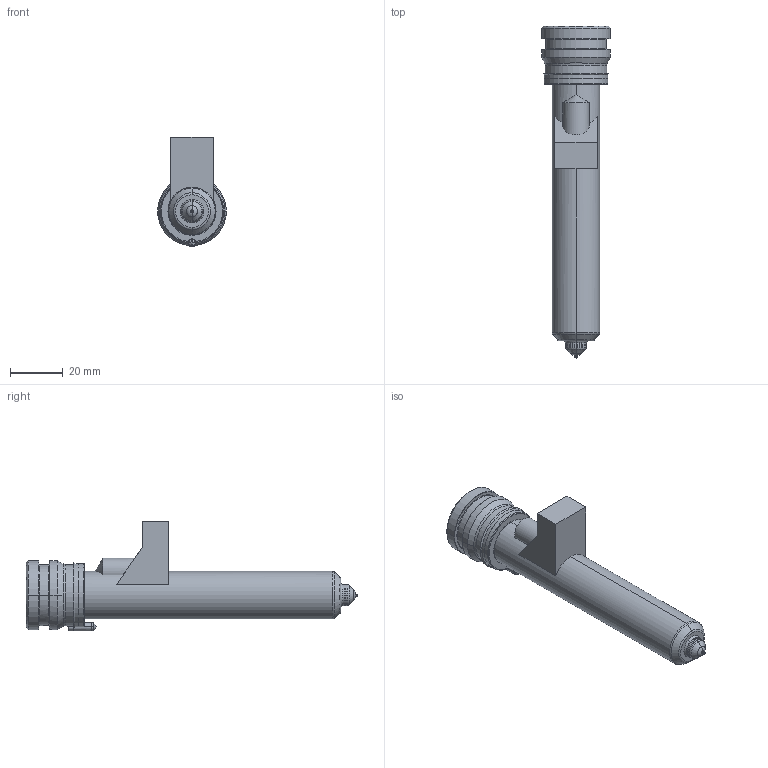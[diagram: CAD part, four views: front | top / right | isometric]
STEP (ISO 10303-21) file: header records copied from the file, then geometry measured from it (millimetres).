
FILE_DESCRIPTION((''),'2;1');
FILE_NAME('MPN-08-24-VX8-106-M','2026-02-05T13:31:07',('UPTIO'),('Thermoplay S.p.A.'),'CREO PARAMETRIC BY PTC INC, 2023494','CREO PARAMETRIC BY PTC INC, 2023494','');
FILE_SCHEMA(('CONFIG_CONTROL_DESIGN','SHAPE_APPEARANCE_LAYERS_GROUPS'));
Length unit declared in the file: millimetre
Products named in the file (1): MPN-08-24-VX8-106-M
Bounding box: 26 x 125.5 x 41.5 mm (x, y, z)
Volume: 24494.3 mm3; surface area: 32243.8 mm2
Topology: 2 solids, 3 shells, 529 faces, 1372 edges, 842 vertices
Faces by surface type: cylinder 174, plane 143, bspline 77, torus 60, cone 60, sphere 9, extrusion 6
Entity records: 27222 total; most frequent: CARTESIAN_POINT 11701, ORIENTED_EDGE 2726, DIRECTION 2495, EDGE_CURVE 1363, AXIS2_PLACEMENT_3D 975, VERTEX_POINT 842, EDGE_LOOP 559, VECTOR 545
